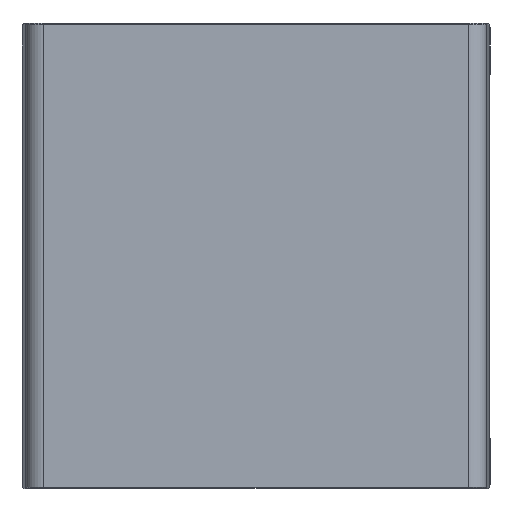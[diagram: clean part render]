
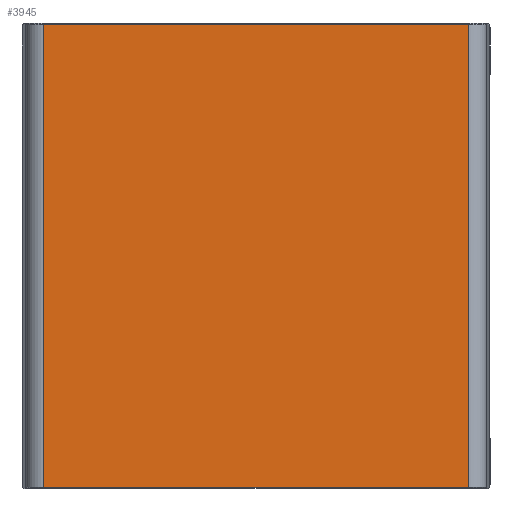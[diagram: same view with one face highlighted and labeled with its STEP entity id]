
A CAD part, top view. The second image highlights one B-rep face of the part: STEP entity #3945.
In plain terms, the highlighted planar face has unit normal (0, 0, 1).
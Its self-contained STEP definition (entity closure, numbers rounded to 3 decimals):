
#3535=CARTESIAN_POINT('',(-274.171,299.0,0.0));
#3536=VERTEX_POINT('',#3535);
#3561=CARTESIAN_POINT('',(274.171,299.,0.0));
#3562=VERTEX_POINT('',#3561);
#3563=CARTESIAN_POINT('',(-274.171,299.,0.0));
#3564=DIRECTION('',(1.0,0.0,0.0));
#3565=VECTOR('',#3564,548.343);
#3566=LINE('',#3563,#3565);
#3567=EDGE_CURVE('',#3536,#3562,#3566,.T.);
#3744=CARTESIAN_POINT('',(274.171,-299.,0.0));
#3745=VERTEX_POINT('',#3744);
#3776=CARTESIAN_POINT('',(-274.171,-299.,0.0));
#3777=VERTEX_POINT('',#3776);
#3778=CARTESIAN_POINT('',(274.171,-299.,0.0));
#3779=DIRECTION('',(-1.0,0.0,0.0));
#3780=VECTOR('',#3779,548.343);
#3781=LINE('',#3778,#3780);
#3782=EDGE_CURVE('',#3745,#3777,#3781,.T.);
#3918=CARTESIAN_POINT('',(274.171,-299.,0.0));
#3919=DIRECTION('',(0.0,1.0,0.0));
#3920=VECTOR('',#3919,598.0);
#3921=LINE('',#3918,#3920);
#3922=EDGE_CURVE('',#3745,#3562,#3921,.T.);
#3929=CARTESIAN_POINT('',(0.,0.,0.0));
#3930=DIRECTION('',(0.0,0.0,1.0));
#3931=DIRECTION('',(1.0,0.0,0.0));
#3932=AXIS2_PLACEMENT_3D('',#3929,#3930,#3931);
#3933=PLANE('',#3932);
#3934=ORIENTED_EDGE('',*,*,#3567,.F.);
#3935=CARTESIAN_POINT('',(-274.171,299.0,0.0));
#3936=DIRECTION('',(0.0,-1.0,0.0));
#3937=VECTOR('',#3936,598.);
#3938=LINE('',#3935,#3937);
#3939=EDGE_CURVE('',#3536,#3777,#3938,.T.);
#3940=ORIENTED_EDGE('',*,*,#3939,.T.);
#3941=ORIENTED_EDGE('',*,*,#3782,.F.);
#3942=ORIENTED_EDGE('',*,*,#3922,.T.);
#3943=EDGE_LOOP('',(#3934,#3940,#3941,#3942));
#3944=FACE_OUTER_BOUND('',#3943,.T.);
#3945=ADVANCED_FACE('',(#3944),#3933,.T.);
